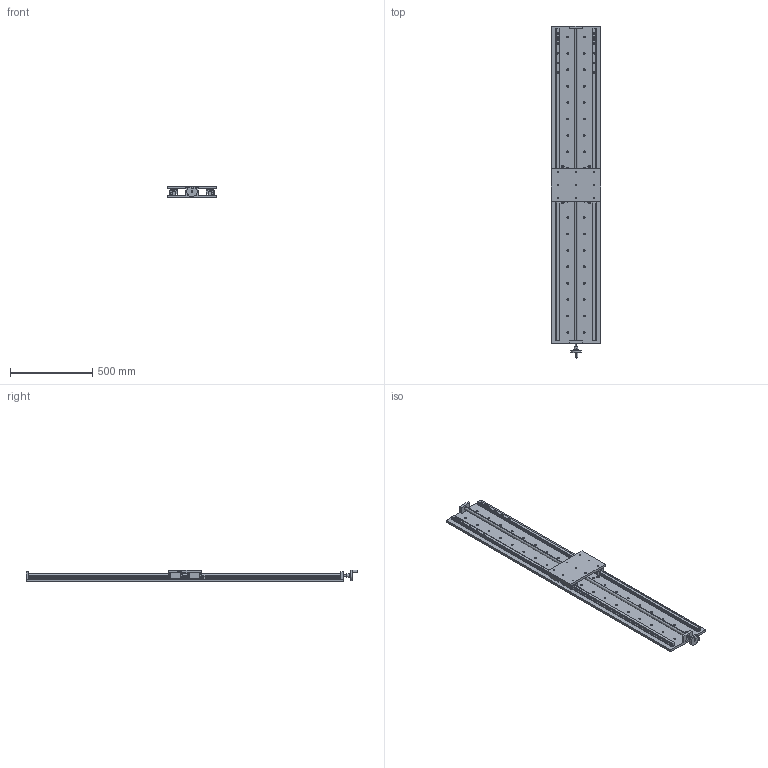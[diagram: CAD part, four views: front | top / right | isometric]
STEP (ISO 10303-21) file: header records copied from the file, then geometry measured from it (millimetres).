
FILE_DESCRIPTION (( 'STEP AP214' ), '1' );
FILE_NAME ('PT300-1700.STEP', '2022-09-18T06:38:37', ( '' ), ( '' ), 'SwSTEP 2.0', 'SolidWorks 2017', '' );
FILE_SCHEMA (( 'AUTOMOTIVE_DESIGN' ));
Length unit declared in the file: millimetre
Products named in the file (12): 34320001; HGR25_temp-1700; PT300-1700; 標踡; HGH25CA2R300Z0C_GW202204023669; 醱啣; M6H; 標踡輸; HGH25C__X2_53F35C01_X0__temp; 菁啣-1700; 忒謫; HGH25C__X2_5DE65C01_X0__temp
Assembly tree (12 placements, depth 3):
  PT300-1700
    菁啣-1700
    醱啣
    HGH25CA2R300Z0C_GW202204023669  x2
      HGR25_temp-1700
      HGH25C__X2_53F35C01_X0__temp
      M6H
      HGH25C__X2_5DE65C01_X0__temp
      34320001
    標踡
      標踡輸
      忒謫
Bounding box: 300 x 2022.1 x 70.06 mm (x, y, z)
Volume: 12357787.5 mm3; surface area: 2009264.3 mm2
Topology: 31 solids, 33 shells, 3159 faces, 8806 edges, 5814 vertices
Faces by surface type: plane 2015, cylinder 878, bspline 202, cone 56, torus 8
Entity records: 77585 total; most frequent: CARTESIAN_POINT 15456, ORIENTED_EDGE 9952, DIRECTION 9180, EDGE_CURVE 4976, VECTOR 3502, LINE 3502, VERTEX_POINT 3303, AXIS2_PLACEMENT_3D 2839
